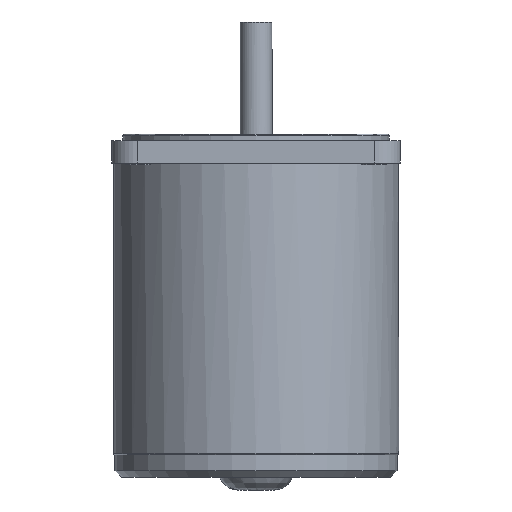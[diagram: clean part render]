
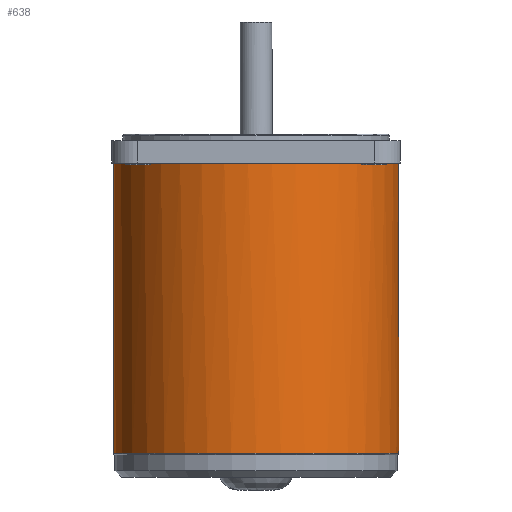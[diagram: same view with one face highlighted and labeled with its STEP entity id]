
A CAD part, front view. The second image highlights one B-rep face of the part: STEP entity #638.
In plain terms, the highlighted cylindrical face has radius 44.5 mm (diameter 89 mm), a full revolution.
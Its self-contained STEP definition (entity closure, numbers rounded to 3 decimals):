
#330=CARTESIAN_POINT('',(-26.7,35.6,36.0));
#331=VERTEX_POINT('',#330);
#332=CARTESIAN_POINT('',(-27.689,34.836,37.));
#333=VERTEX_POINT('',#332);
#334=CARTESIAN_POINT('',(-26.7,35.6,36.));
#335=CARTESIAN_POINT('',(-26.967,35.399,36.));
#336=CARTESIAN_POINT('',(-27.34,35.112,36.15));
#337=CARTESIAN_POINT('',(-27.639,34.876,36.619));
#338=CARTESIAN_POINT('',(-27.689,34.836,36.873));
#339=CARTESIAN_POINT('',(-27.689,34.836,37.));
#340=B_SPLINE_CURVE_WITH_KNOTS('',3,(#334,#335,#336,#337,#338,#339),.UNSPECIFIED.,.F.,.U.,(4,1,1,4),(-0.177,-0.076,-0.038,0.),.UNSPECIFIED.);
#341=EDGE_CURVE('',#331,#333,#340,.T.);
#380=CARTESIAN_POINT('',(-27.689,34.836,98.0));
#381=VERTEX_POINT('',#380);
#396=CARTESIAN_POINT('',(-27.689,34.836,37.));
#397=DIRECTION('',(0.0,0.0,1.0));
#398=VECTOR('',#397,61.);
#399=LINE('',#396,#398);
#400=EDGE_CURVE('',#333,#381,#399,.T.);
#481=CARTESIAN_POINT('',(27.689,34.836,37.));
#482=VERTEX_POINT('',#481);
#490=CARTESIAN_POINT('',(26.7,35.6,36.0));
#491=VERTEX_POINT('',#490);
#492=CARTESIAN_POINT('',(27.689,34.836,37.));
#493=CARTESIAN_POINT('',(27.689,34.836,36.831));
#494=CARTESIAN_POINT('',(27.598,34.909,36.497));
#495=CARTESIAN_POINT('',(27.236,35.193,36.102));
#496=CARTESIAN_POINT('',(26.9,35.45,36.));
#497=CARTESIAN_POINT('',(26.7,35.6,36.));
#498=B_SPLINE_CURVE_WITH_KNOTS('',3,(#492,#493,#494,#495,#496,#497),.UNSPECIFIED.,.F.,.U.,(4,1,1,4),(-0.177,-0.127,-0.076,0.0),.UNSPECIFIED.);
#499=EDGE_CURVE('',#482,#491,#498,.T.);
#516=CARTESIAN_POINT('',(27.689,34.836,98.0));
#517=VERTEX_POINT('',#516);
#527=CARTESIAN_POINT('',(27.689,34.836,98.0));
#528=DIRECTION('',(0.0,0.0,-1.0));
#529=VECTOR('',#528,61.);
#530=LINE('',#527,#529);
#531=EDGE_CURVE('',#517,#482,#530,.T.);
#549=CARTESIAN_POINT('',(0.0,0.0,36.0));
#550=DIRECTION('',(0.0,0.0,1.0));
#551=DIRECTION('',(0.0,1.0,0.0));
#552=AXIS2_PLACEMENT_3D('',#549,#550,#551);
#553=CIRCLE('',#552,44.5);
#554=EDGE_CURVE('',#491,#331,#553,.T.);
#608=CARTESIAN_POINT('',(0.0,0.0,0.0));
#609=DIRECTION('',(0.0,0.0,1.0));
#610=DIRECTION('',(-1.0,0.0,0.0));
#611=AXIS2_PLACEMENT_3D('',#608,#609,#610);
#612=CYLINDRICAL_SURFACE('',#611,44.5);
#613=CARTESIAN_POINT('',(-44.5,0.,7.5));
#614=VERTEX_POINT('',#613);
#615=CARTESIAN_POINT('',(0.0,0.0,7.5));
#616=DIRECTION('',(0.0,0.0,-1.0));
#617=DIRECTION('',(1.0,0.0,0.0));
#618=AXIS2_PLACEMENT_3D('',#615,#616,#617);
#619=CIRCLE('',#618,44.5);
#620=EDGE_CURVE('',#614,#614,#619,.T.);
#621=ORIENTED_EDGE('',*,*,#620,.F.);
#622=EDGE_LOOP('',(#621));
#623=FACE_OUTER_BOUND('',#622,.T.);
#624=ORIENTED_EDGE('',*,*,#400,.F.);
#625=ORIENTED_EDGE('',*,*,#341,.F.);
#626=ORIENTED_EDGE('',*,*,#554,.F.);
#627=ORIENTED_EDGE('',*,*,#499,.F.);
#628=ORIENTED_EDGE('',*,*,#531,.F.);
#629=CARTESIAN_POINT('',(0.0,0.0,98.0));
#630=DIRECTION('',(0.0,0.0,-1.0));
#631=DIRECTION('',(-1.0,0.0,0.0));
#632=AXIS2_PLACEMENT_3D('',#629,#630,#631);
#633=CIRCLE('',#632,44.5);
#634=EDGE_CURVE('',#517,#381,#633,.T.);
#635=ORIENTED_EDGE('',*,*,#634,.T.);
#636=EDGE_LOOP('',(#624,#625,#626,#627,#628,#635));
#637=FACE_BOUND('',#636,.T.);
#638=ADVANCED_FACE('',(#623,#637),#612,.T.);
